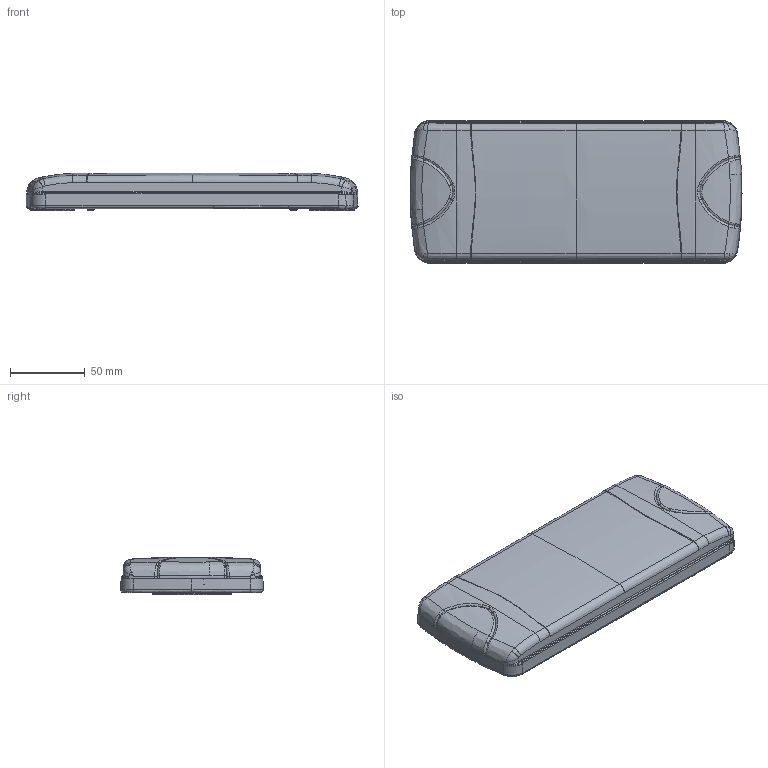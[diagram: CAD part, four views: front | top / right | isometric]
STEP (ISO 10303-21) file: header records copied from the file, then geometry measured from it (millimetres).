
FILE_DESCRIPTION(('CATIA V5 STEP Exchange','CAx-IF Rec.Pracs.--- Model Styling and Organization---1.5--- 2016-08-15','CAx-IF Rec.Pracs.---Supplemental Geometry---1.0---2011-11-01','CAx-IF Rec.Pracs.--- Composite Materials ---1.1---2010-07-15'),'2;1');
FILE_NAME('E:\tmp\ddx\2011206\HELLA_3D_data_LED_rear_lamp_DuraLED_Combi_2VA-980-710-06.stp','2022-01-18T07:33:11+00:00',('none'),('none'),'CATIA Version 5-6 Release 2020 SP3 HF9','CATIA V5 STEP AP214 Edition 3 v2','none');
FILE_SCHEMA(('AUTOMOTIVE_DESIGN { 1 0 10303 214 3 1 1 1 }'));
Products named in the file (1): 10002988278_D10_001
Bounding box: 222.5 x 95.63 x 25.4 mm (x, y, z)
Volume: 437883.6 mm3; surface area: 64524.5 mm2
Topology: 5 solids, 5 shells, 1331 faces, 3724 edges, 2371 vertices
Faces by surface type: bspline 1169, plane 162
Entity records: 60583 total; most frequent: CARTESIAN_POINT 38968, ORIENTED_EDGE 7376, EDGE_CURVE 3688, VERTEX_POINT 2371, B_SPLINE_CURVE_WITH_KNOTS 2177, EDGE_LOOP 1345, ADVANCED_FACE 1331, FACE_OUTER_BOUND 1331
